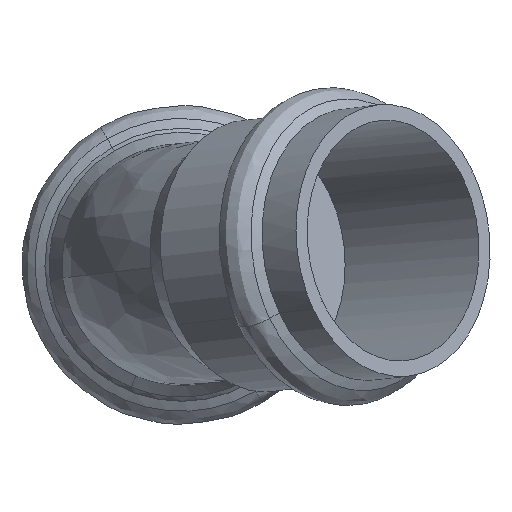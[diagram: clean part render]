
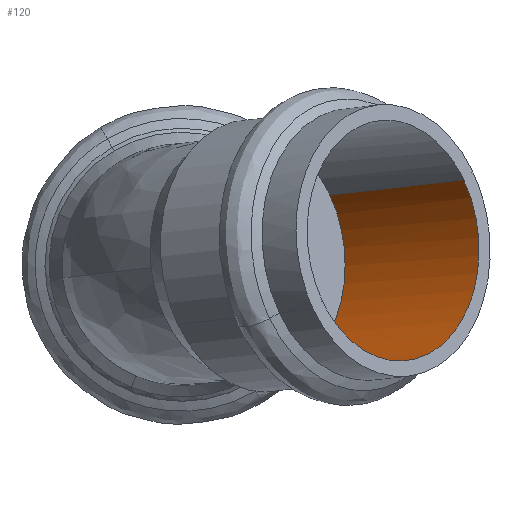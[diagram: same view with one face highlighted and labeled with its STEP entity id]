
A CAD part, top view. The second image highlights one B-rep face of the part: STEP entity #120.
In plain terms, the highlighted cylindrical face has radius 15.85 mm (diameter 31.7 mm), a partial arc.
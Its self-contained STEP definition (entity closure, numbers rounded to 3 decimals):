
#120=ADVANCED_FACE('',(#244),#245,.F.);
#244=FACE_OUTER_BOUND('',#699,.T.);
#245=CYLINDRICAL_SURFACE('',#700,15.85);
#699=EDGE_LOOP('',(#1068,#1069,#1070,#1071,#1072,#1073));
#700=AXIS2_PLACEMENT_3D('',#1074,#1075,#1076);
#1068=ORIENTED_EDGE('',*,*,#1201,.T.);
#1069=ORIENTED_EDGE('',*,*,#1278,.F.);
#1070=ORIENTED_EDGE('',*,*,#1279,.F.);
#1071=ORIENTED_EDGE('',*,*,#1203,.T.);
#1072=ORIENTED_EDGE('',*,*,#1275,.F.);
#1073=ORIENTED_EDGE('',*,*,#1276,.F.);
#1074=CARTESIAN_POINT('',(13.702,1.529,13.787));
#1075=DIRECTION('',(-0.703,-0.078,-0.707));
#1076=DIRECTION('',(-0.584,-0.503,0.637));
#1201=EDGE_CURVE('',#1369,#1370,#1371,.T.);
#1203=EDGE_CURVE('',#1374,#1372,#1375,.T.);
#1275=EDGE_CURVE('',#1478,#1372,#1479,.T.);
#1276=EDGE_CURVE('',#1369,#1478,#1480,.T.);
#1278=EDGE_CURVE('',#1482,#1370,#1483,.T.);
#1279=EDGE_CURVE('',#1374,#1482,#1484,.T.);
#1369=VERTEX_POINT('',#1731);
#1370=VERTEX_POINT('',#1732);
#1371=LINE('',#1733,#1734);
#1372=VERTEX_POINT('',#1735);
#1374=VERTEX_POINT('',#1748);
#1375=LINE('',#1749,#1750);
#1478=VERTEX_POINT('',#2261);
#1479=(B_SPLINE_CURVE(2,(#2263,#2264,#2265),.UNSPECIFIED.,.F.,.F.)B_SPLINE_CURVE_WITH_KNOTS((3,3),(-3.142,-1.571),.UNSPECIFIED.)RATIONAL_B_SPLINE_CURVE((1.0,0.707,1.0))BOUNDED_CURVE()REPRESENTATION_ITEM('')GEOMETRIC_REPRESENTATION_ITEM()CURVE());
#1480=(B_SPLINE_CURVE(2,(#2273,#2274,#2275),.UNSPECIFIED.,.F.,.F.)B_SPLINE_CURVE_WITH_KNOTS((3,3),(1.571,3.142),.UNSPECIFIED.)RATIONAL_B_SPLINE_CURVE((1.0,0.707,1.0))BOUNDED_CURVE()REPRESENTATION_ITEM('')GEOMETRIC_REPRESENTATION_ITEM()CURVE());
#1482=VERTEX_POINT('',#2283);
#1483=(B_SPLINE_CURVE(2,(#2285,#2286,#2287),.UNSPECIFIED.,.F.,.F.)B_SPLINE_CURVE_WITH_KNOTS((3,3),(-3.142,-1.571),.UNSPECIFIED.)RATIONAL_B_SPLINE_CURVE((1.0,0.707,1.0))BOUNDED_CURVE()REPRESENTATION_ITEM('')GEOMETRIC_REPRESENTATION_ITEM()CURVE());
#1484=(B_SPLINE_CURVE(2,(#2295,#2296,#2297),.UNSPECIFIED.,.F.,.F.)B_SPLINE_CURVE_WITH_KNOTS((3,3),(1.571,3.142),.UNSPECIFIED.)RATIONAL_B_SPLINE_CURVE((1.0,0.707,1.0))BOUNDED_CURVE()REPRESENTATION_ITEM('')GEOMETRIC_REPRESENTATION_ITEM()CURVE());
#1731=CARTESIAN_POINT('',(0.927,-6.842,20.34));
#1732=CARTESIAN_POINT('',(18.496,-4.882,38.018));
#1733=CARTESIAN_POINT('',(4.441,-6.45,23.876));
#1734=VECTOR('',#2467,1.0);
#1735=CARTESIAN_POINT('',(19.449,9.116,0.162));
#1748=CARTESIAN_POINT('',(37.018,11.077,17.84));
#1749=CARTESIAN_POINT('',(22.963,9.508,3.698));
#1750=VECTOR('',#2468,1.0);
#2261=CARTESIAN_POINT('',(16.621,-12.502,5.37));
#2263=CARTESIAN_POINT('',(16.621,-12.502,5.37));
#2264=CARTESIAN_POINT('',(25.882,-4.522,-4.719));
#2265=CARTESIAN_POINT('',(19.449,9.116,0.162));
#2273=CARTESIAN_POINT('',(0.927,-6.842,20.34));
#2274=CARTESIAN_POINT('',(7.36,-20.481,15.459));
#2275=CARTESIAN_POINT('',(16.621,-12.502,5.37));
#2283=CARTESIAN_POINT('',(34.19,-10.541,23.048));
#2285=CARTESIAN_POINT('',(34.19,-10.541,23.048));
#2286=CARTESIAN_POINT('',(24.929,-18.52,33.137));
#2287=CARTESIAN_POINT('',(18.496,-4.882,38.018));
#2295=CARTESIAN_POINT('',(37.018,11.077,17.84));
#2296=CARTESIAN_POINT('',(43.451,-2.562,12.959));
#2297=CARTESIAN_POINT('',(34.19,-10.541,23.048));
#2467=DIRECTION('',(0.703,0.078,0.707));
#2468=DIRECTION('',(-0.703,-0.078,-0.707));
